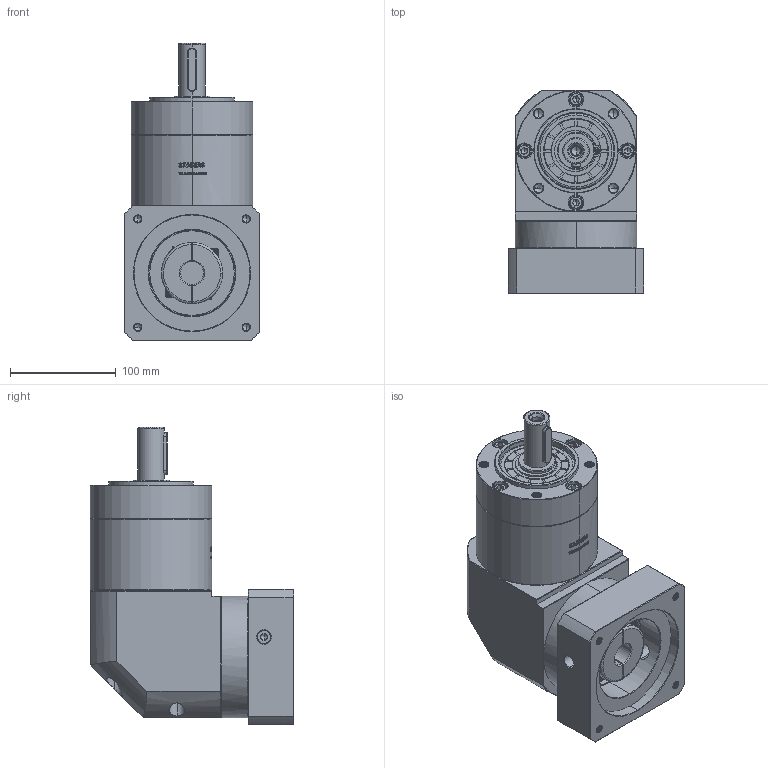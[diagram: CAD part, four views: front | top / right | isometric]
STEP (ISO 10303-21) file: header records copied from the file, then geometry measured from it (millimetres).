
FILE_DESCRIPTION (( 'STEP AP214' ), '1' );
FILE_NAME ('ZER120A-D25-L2-22-110-145-M8.step', '2023-03-14T08:16:36', ( '' ), ( '' ), 'SwSTEP 2.0', 'SolidWorks 2016', '' );
FILE_SCHEMA (( 'AUTOMOTIVE_DESIGN' ));
Length unit declared in the file: millimetre
Products named in the file (1): ZER120A-D25-L2-22-110-145-M8
Bounding box: 128 x 192.4 x 281.5 mm (x, y, z)
Volume: 3213601.4 mm3; surface area: 256743.7 mm2
Topology: 6 solids, 6 shells, 2955 faces, 7928 edges, 5117 vertices
Faces by surface type: plane 1463, bspline 619, cylinder 532, cone 333, torus 8
Entity records: 169317 total; most frequent: CARTESIAN_POINT 69548, ORIENTED_EDGE 15780, DIRECTION 11254, EDGE_CURVE 7890, VERTEX_POINT 5117, LINE 4802, VECTOR 4802, AXIS2_PLACEMENT_3D 3226
